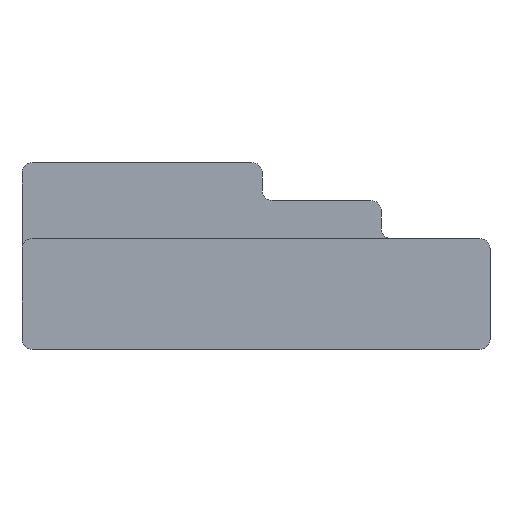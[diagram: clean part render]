
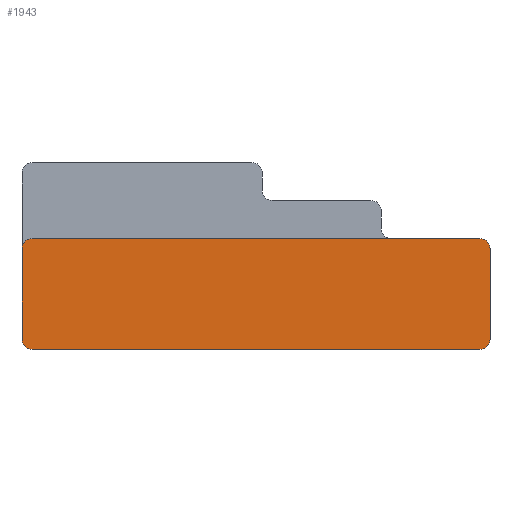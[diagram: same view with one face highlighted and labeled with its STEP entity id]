
A CAD part, front view. The second image highlights one B-rep face of the part: STEP entity #1943.
In plain terms, the highlighted planar face has unit normal (0, -1, 0).
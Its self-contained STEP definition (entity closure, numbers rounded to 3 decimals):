
#27=LINE('',#2766,#257);
#55=LINE('',#2831,#285);
#103=LINE('',#2951,#333);
#113=LINE('',#2972,#343);
#257=VECTOR('',#2229,1000.);
#285=VECTOR('',#2283,1000.);
#333=VECTOR('',#2391,1000.);
#343=VECTOR('',#2413,1000.);
#509=PLANE('',#2093);
#738=ORIENTED_EDGE('',*,*,#1245,.F.);
#739=ORIENTED_EDGE('',*,*,#1169,.T.);
#740=ORIENTED_EDGE('',*,*,#1172,.T.);
#741=ORIENTED_EDGE('',*,*,#1248,.T.);
#742=ORIENTED_EDGE('',*,*,#1140,.T.);
#743=ORIENTED_EDGE('',*,*,#1137,.T.);
#744=ORIENTED_EDGE('',*,*,#1232,.F.);
#745=ORIENTED_EDGE('',*,*,#1247,.T.);
#1137=EDGE_CURVE('',#1419,#1417,#1603,.T.);
#1140=EDGE_CURVE('',#1421,#1419,#27,.T.);
#1169=EDGE_CURVE('',#1443,#1441,#1607,.T.);
#1172=EDGE_CURVE('',#1441,#1445,#55,.T.);
#1232=EDGE_CURVE('',#1487,#1417,#103,.T.);
#1245=EDGE_CURVE('',#1443,#1492,#113,.T.);
#1247=EDGE_CURVE('',#1487,#1492,#1624,.T.);
#1248=EDGE_CURVE('',#1445,#1421,#1625,.T.);
#1417=VERTEX_POINT('',#2758);
#1419=VERTEX_POINT('',#2761);
#1421=VERTEX_POINT('',#2767);
#1441=VERTEX_POINT('',#2823);
#1443=VERTEX_POINT('',#2826);
#1445=VERTEX_POINT('',#2832);
#1487=VERTEX_POINT('',#2952);
#1492=VERTEX_POINT('',#2973);
#1603=CIRCLE('',#2039,0.5);
#1607=CIRCLE('',#2052,0.5);
#1624=CIRCLE('',#2092,0.5);
#1625=CIRCLE('',#2094,0.5);
#1692=EDGE_LOOP('',(#738,#739,#740,#741,#742,#743,#744,#745));
#1807=FACE_BOUND('',#1692,.T.);
#1943=ADVANCED_FACE('',(#1807),#509,.T.);
#2039=AXIS2_PLACEMENT_3D('',#2760,#2222,#2223);
#2052=AXIS2_PLACEMENT_3D('',#2825,#2276,#2277);
#2092=AXIS2_PLACEMENT_3D('',#2976,#2417,#2418);
#2093=AXIS2_PLACEMENT_3D('',#2977,#2419,#2420);
#2094=AXIS2_PLACEMENT_3D('',#2978,#2421,#2422);
#2222=DIRECTION('',(0.,-1.,0.));
#2223=DIRECTION('',(1.,0.,0.));
#2229=DIRECTION('',(0.,0.,1.));
#2276=DIRECTION('',(0.,-1.,0.));
#2277=DIRECTION('',(-1.,0.,0.));
#2283=DIRECTION('',(1.,0.,0.));
#2391=DIRECTION('',(1.,0.,0.));
#2413=DIRECTION('',(0.,0.,1.));
#2417=DIRECTION('',(0.,-1.,0.));
#2418=DIRECTION('',(0.,0.,1.));
#2419=DIRECTION('',(0.,-1.,0.));
#2420=DIRECTION('',(1.,0.,0.));
#2421=DIRECTION('',(0.,-1.,0.));
#2422=DIRECTION('',(0.,0.,-1.));
#2758=CARTESIAN_POINT('',(10.9,-11.6,5.4));
#2760=CARTESIAN_POINT('',(10.9,-11.6,4.9));
#2761=CARTESIAN_POINT('',(11.4,-11.6,4.9));
#2766=CARTESIAN_POINT('',(11.4,-11.6,0.5));
#2767=CARTESIAN_POINT('',(11.4,-11.6,0.5));
#2823=CARTESIAN_POINT('',(-10.9,-11.6,0.));
#2825=CARTESIAN_POINT('',(-10.9,-11.6,0.5));
#2826=CARTESIAN_POINT('',(-11.4,-11.6,0.5));
#2831=CARTESIAN_POINT('',(-10.9,-11.6,0.));
#2832=CARTESIAN_POINT('',(10.9,-11.6,0.));
#2951=CARTESIAN_POINT('',(-10.9,-11.6,5.4));
#2952=CARTESIAN_POINT('',(-10.9,-11.6,5.4));
#2972=CARTESIAN_POINT('',(-11.4,-11.6,0.5));
#2973=CARTESIAN_POINT('',(-11.4,-11.6,4.9));
#2976=CARTESIAN_POINT('',(-10.9,-11.6,4.9));
#2977=CARTESIAN_POINT('',(-11.4,-11.6,0.));
#2978=CARTESIAN_POINT('',(10.9,-11.6,0.5));
